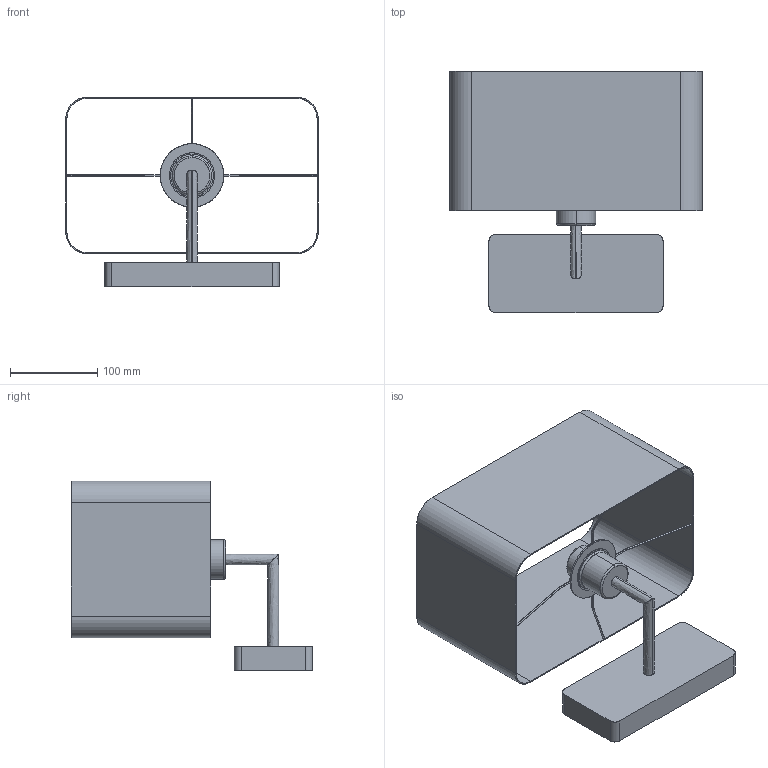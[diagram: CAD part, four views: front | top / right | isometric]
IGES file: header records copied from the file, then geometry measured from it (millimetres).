
Start section: SolidWorks IGES file using analytic representation for surfaces
Global section: file name: \\srvficheros\grupos\DISENYO\DESARROLLO DE PRODUCTO\ROMEO-3971\ROMEO-A39710.IGS; native system: SolidWorks 2025; preprocessor: SolidWorks 2025; author: d.pons; date: 260206.090210; units: millimetre
Bounding box: 290 x 277 x 218 mm (x, y, z)
Surface area: 417859.9 mm2 (no closed solid volume)
Topology: 0 solids, 0 shells, 106 faces, 2160 edges, 2160 vertices
Faces by surface type: revolution 58, bspline 48
